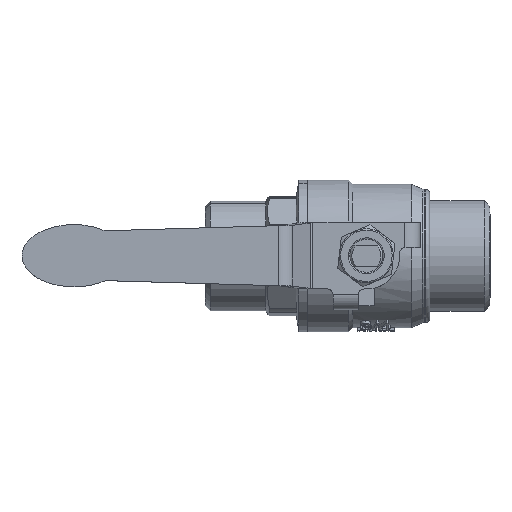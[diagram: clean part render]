
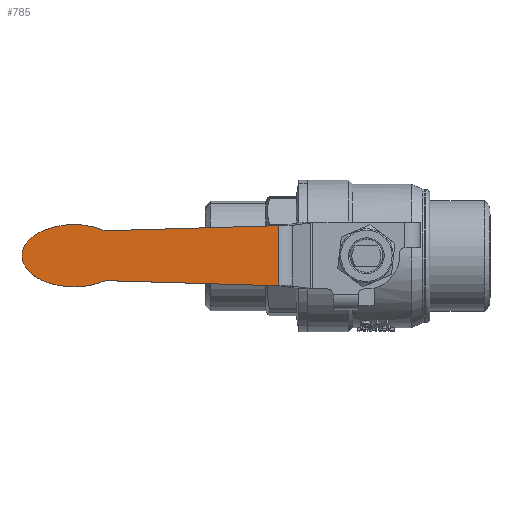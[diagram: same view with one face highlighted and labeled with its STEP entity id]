
A CAD part, top view. The second image highlights one B-rep face of the part: STEP entity #785.
In plain terms, the highlighted planar face has unit normal (0, 0, 1).
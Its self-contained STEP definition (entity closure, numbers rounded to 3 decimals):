
#184=(
BOUNDED_CURVE()
B_SPLINE_CURVE(3,(#7934,#7935,#7936,#7937),.UNSPECIFIED.,.F.,.F.)
B_SPLINE_CURVE_WITH_KNOTS((4,4),(0.,1.),.UNSPECIFIED.)
CURVE()
GEOMETRIC_REPRESENTATION_ITEM()
RATIONAL_B_SPLINE_CURVE((1.,0.631,0.631,1.))
REPRESENTATION_ITEM('')
);
#186=(
BOUNDED_CURVE()
B_SPLINE_CURVE(3,(#8045,#8046,#8047,#8048),.UNSPECIFIED.,.F.,.F.)
B_SPLINE_CURVE_WITH_KNOTS((4,4),(0.,1.),.UNSPECIFIED.)
CURVE()
GEOMETRIC_REPRESENTATION_ITEM()
RATIONAL_B_SPLINE_CURVE((1.,0.631,0.631,1.))
REPRESENTATION_ITEM('')
);
#218=PLANE('',#5822);
#785=ADVANCED_FACE('',(#1156),#218,.T.);
#1156=FACE_OUTER_BOUND('',#1481,.T.);
#1481=EDGE_LOOP('',(#2670,#2671,#2672,#2673,#2674));
#1857=LINE('',#8041,#2154);
#1859=LINE('',#8068,#2156);
#1860=LINE('',#8070,#2157);
#2154=VECTOR('',#6566,1.);
#2156=VECTOR('',#6570,1.);
#2157=VECTOR('',#6573,1.);
#2670=ORIENTED_EDGE('',*,*,#4750,.F.);
#2671=ORIENTED_EDGE('',*,*,#4749,.T.);
#2672=ORIENTED_EDGE('',*,*,#4702,.T.);
#2673=ORIENTED_EDGE('',*,*,#4747,.T.);
#2674=ORIENTED_EDGE('',*,*,#4745,.T.);
#4129=VERTEX_POINT('',#7933);
#4130=VERTEX_POINT('',#7938);
#4164=VERTEX_POINT('',#8040);
#4165=VERTEX_POINT('',#8042);
#4166=VERTEX_POINT('',#8067);
#4702=EDGE_CURVE('',#4130,#4129,#184,.T.);
#4745=EDGE_CURVE('',#4165,#4164,#1857,.T.);
#4747=EDGE_CURVE('',#4129,#4165,#186,.T.);
#4749=EDGE_CURVE('',#4166,#4130,#1859,.T.);
#4750=EDGE_CURVE('',#4166,#4164,#1860,.T.);
#5822=AXIS2_PLACEMENT_3D('',#8071,#6574,#6575);
#6566=DIRECTION('',(1.,-0.029,0.));
#6570=DIRECTION('',(-1.,-0.029,0.));
#6573=DIRECTION('',(0.,-1.,0.));
#6574=DIRECTION('',(0.,0.,1.));
#6575=DIRECTION('',(-1.,0.,0.));
#7933=CARTESIAN_POINT('',(-88.157,0.,49.537));
#7934=CARTESIAN_POINT('',(-68.157,6.,49.537));
#7935=CARTESIAN_POINT('',(-77.599,10.249,49.537));
#7936=CARTESIAN_POINT('',(-88.157,7.082,49.537));
#7937=CARTESIAN_POINT('',(-88.157,0.,49.537));
#7938=CARTESIAN_POINT('',(-68.157,6.,49.537));
#8040=CARTESIAN_POINT('',(-26.368,-7.229,49.537));
#8041=CARTESIAN_POINT('',(-68.157,-6.,49.537));
#8042=CARTESIAN_POINT('',(-68.157,-6.,49.537));
#8045=CARTESIAN_POINT('',(-88.157,0.,49.537));
#8046=CARTESIAN_POINT('',(-88.157,-7.082,49.537));
#8047=CARTESIAN_POINT('',(-77.599,-10.249,49.537));
#8048=CARTESIAN_POINT('',(-68.157,-6.,49.537));
#8067=CARTESIAN_POINT('',(-26.368,7.229,49.537));
#8068=CARTESIAN_POINT('',(-68.157,6.,49.537));
#8070=CARTESIAN_POINT('',(-26.368,0.,49.537));
#8071=CARTESIAN_POINT('',(-75.657,0.,49.537));
